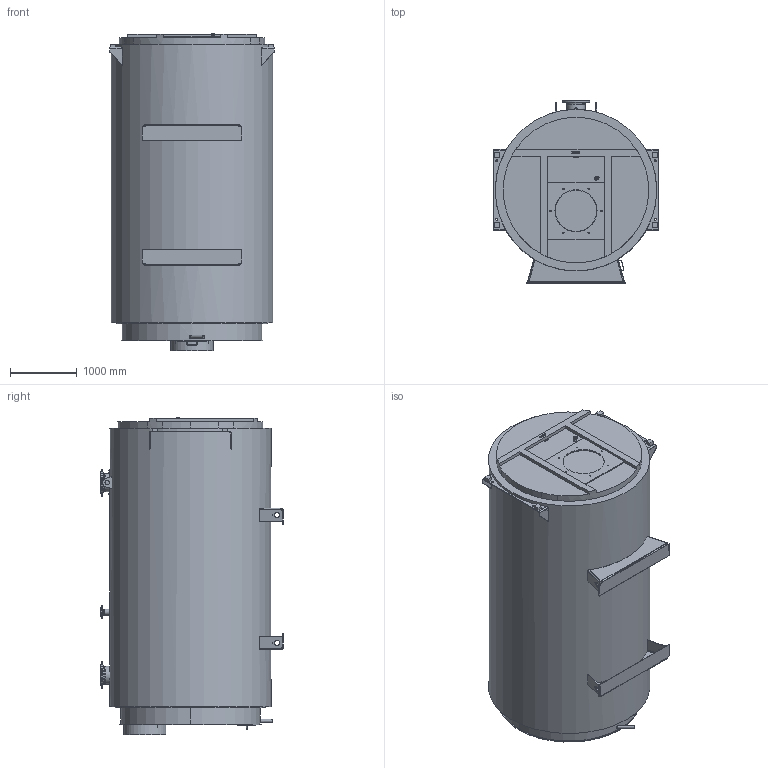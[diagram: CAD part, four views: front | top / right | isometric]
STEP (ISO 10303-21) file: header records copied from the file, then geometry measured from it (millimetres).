
FILE_DESCRIPTION(('TFLEX Exchange Step'),'2;1');
FILE_NAME('M22A00A_7951813_H001.stp', '2024-08-09T15:55:40+03:00',('kort'),('Unknown organisation'),'TFLEX Exchange 2024.2','T-FLEX CAD','Unknown authorisation');
FILE_SCHEMA( ('AP242_MANAGED_MODEL_BASED_3D_ENGINEERING_MIM_LF {1 0 10303 442 1 1 4 }') );
Length unit declared in the file: millimetre
Products named in the file (1): Assembly
Bounding box: 2465 x 2730 x 4759.64 mm (x, y, z)
Volume: 20532184049 mm3; surface area: 118839326.9 mm2
Topology: 35 solids, 36 shells, 965 faces, 2512 edges, 1682 vertices
Faces by surface type: plane 472, cylinder 284, bspline 114, cone 66, torus 25, sphere 4
Full cylindrical faces by diameter (mm): 1 x16, 2.2 x4, 3.2 x4, 3.3 x4, 4 x4, 6.5 x4, 10 x9, 11.45 x1, 12 x12, 13 x4, 13.84 x6, 14.63 x6, 18 x8, 22 x6, 26 x24, 32 x4, 35 x3, 40 x2, 41.1 x1, 41.9 x1, 45 x1, 47.8 x1, 48.3 x2, 70 x2, 78.9 x1, 80 x4, 82.5 x1, 88.9 x1, 138 x1, 141 x1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
Entity records: 91608 total; most frequent: CARTESIAN_POINT 67147, ORIENTED_EDGE 4978, DIRECTION 4627, EDGE_CURVE 2489, AXIS2_PLACEMENT_3D 1711, VERTEX_POINT 1682, VECTOR 1205, LINE 1205
